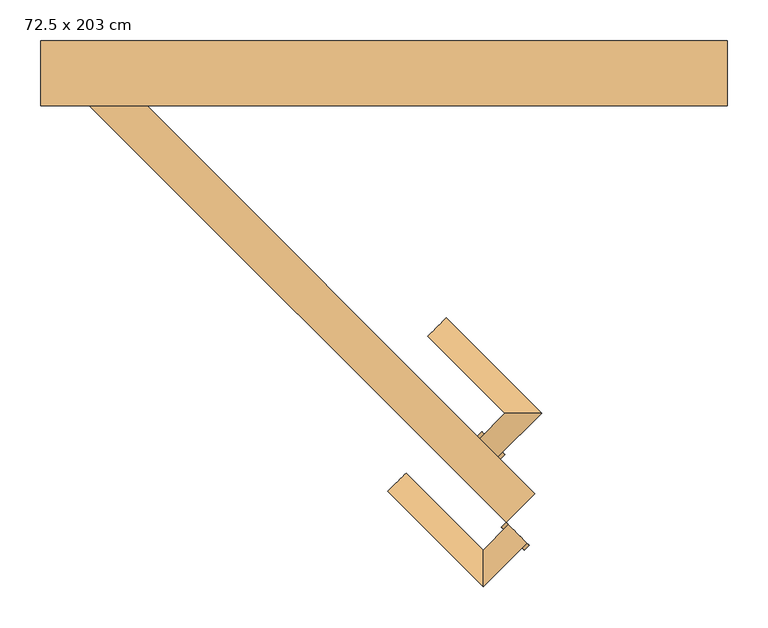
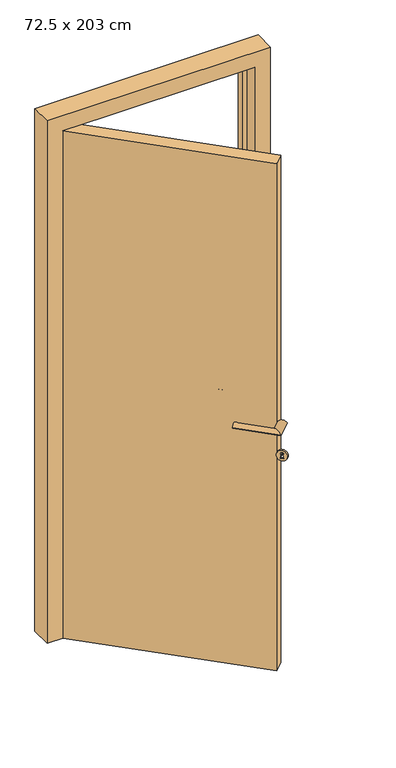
"""IFC4 building model written with IfcOpenShell, lengths in millimetres: door geometry, Puerta abatible ciega con ventilación : 72.5 x 203 cm."""

from ifc_helpers import new_model, si_unit, point, frame, frame_2d, origin, origin_with_axes, place, context, project, spatial, polyline, circle_curve, ellipse_curve, trimmed, segment, composite_curve, outline, extrude, faceted_brep, source, transform, mapped, element, save
from ifc_brep_helpers import plane_surface, cylinder_surface, advanced_brep


def door_72_5_x_203_cm_4a5d1edf(model_context):
    return source(origin(), model_context, "Body", "SolidModel", [
        extrude(outline(composite_curve([segment(trimmed(circle_curve(frame_2d((0.0, 20.0)), 20.0), [point((0.0, 40.0000001))], [point((0.0, 0.0))], False, "CARTESIAN"), True, "CONTINUOUS"), segment(trimmed(circle_curve(frame_2d((0.0, 20.0)), 20.0), [point((0.0, 0.0))], [point((0.0, 40.0000001))], False, "CARTESIAN"), True, "CONTINUOUS")], self_intersect=False), holes=[composite_curve([segment(trimmed(circle_curve(frame_2d((7.2874327, 20.0)), 5.0), [point((2.8258407, 17.7429673))], [point((2.8258407, 22.2570328))], True, "CARTESIAN"), True, "CONTINUOUS"), segment(polyline([(2.8258407, 22.2570328), (-11.7285952, 25.8858612), (-11.7285952, 14.1141389), (2.8258407, 17.7429673)]), True, "CONTINUOUS")], self_intersect=False)]), frame((144.4955621, -558.3092706, 869.9969135), z_axis=(0.7071067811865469, 0.7071067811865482, 0.0), x_axis=(0.0, 0.0, 1.0)), (0.0, 0.0, 1.0), 8.0),
        advanced_brep(
        [(152.9808435, -555.4808435, 1000.0), (175.6082605, -578.1082605, 1000.0), (121.8681451, -631.8483759, 1000.0), (121.8681451, -586.5935419, 1000.0), (27.1158364, -491.8412332, 1000.0), (4.4884194, -514.4686502, 1000.0)],
        [
            (0, 1, circle_curve(frame((164.294552, -566.794552, 988.1967254), z_axis=(0.7071067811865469, 0.7071067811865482, 0.0), x_axis=(0.7071067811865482, -0.7071067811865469, 0.0)), 19.8825877)),
            (1, 0, circle_curve(frame((164.294552, -566.794552, 1011.8032746), z_axis=(0.7071067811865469, 0.7071067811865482, 0.0), x_axis=(0.7071067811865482, -0.7071067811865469, 0.0)), 19.8825877)),
            (1, 2),
            (2, 3, ellipse_curve(frame((121.8681451, -609.2209589, 1011.8032746), z_axis=(1.0, 0.0, 0.0), x_axis=(0.0, 1.0, 0.0)), 28.1182251, 19.8825877)),
            (3, 0),
            (3, 2, ellipse_curve(frame((121.8681451, -609.2209589, 988.1967254), z_axis=(1.0, 0.0, 0.0), x_axis=(0.0, 1.0, 0.0)), 28.1182251, 19.8825877)),
            (4, 5, circle_curve(frame((15.8021279, -503.1549417, 1011.8032746), z_axis=(-0.7071067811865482, 0.7071067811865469, 0.0), x_axis=(-0.7071067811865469, -0.7071067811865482, 0.0)), 19.8825877)),
            (5, 4, circle_curve(frame((15.8021279, -503.1549417, 988.1967254), z_axis=(-0.7071067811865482, 0.7071067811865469, 0.0), x_axis=(-0.7071067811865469, -0.7071067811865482, 0.0)), 19.8825877)),
            (2, 5),
            (4, 3),
        ],
        [
            plane_surface(frame((164.294552, -566.794552, 1000.0), z_axis=(0.7071067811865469, 0.7071067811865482, 0.0), x_axis=(0.0, 0.0, -1.0))),
            cylinder_surface(frame((164.294552, -566.794552, 1011.8032746), z_axis=(0.7071067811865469, 0.7071067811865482, 0.0), x_axis=(0.7071067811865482, -0.7071067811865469, 0.0)), 19.8825877),
            cylinder_surface(frame((164.294552, -566.794552, 988.1967254), z_axis=(0.7071067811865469, 0.7071067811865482, 0.0), x_axis=(0.7071067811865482, -0.7071067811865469, 0.0)), 19.8825877),
            plane_surface(frame((15.8021279, -503.1549417, 1000.0), z_axis=(-0.7071067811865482, 0.7071067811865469, 0.0), x_axis=(0.0, 0.0, -1.0))),
            cylinder_surface(frame((121.8681451, -609.2209589, 1011.8032746), z_axis=(0.7071067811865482, -0.7071067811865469, 0.0), x_axis=(-0.7071067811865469, -0.7071067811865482, 0.0)), 19.8825877),
            cylinder_surface(frame((121.8681451, -609.2209589, 988.1967254), z_axis=(0.7071067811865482, -0.7071067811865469, 0.0), x_axis=(-0.7071067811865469, -0.7071067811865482, 0.0)), 19.8825877),
        ],
        [
            (0, [[1, 2]]),
            (1, [[3, 4, 5, -2]]),
            (2, [[-5, 6, -3, -1]]),
            (3, [[7, 8]]),
            (4, [[9, -7, 10, -4]]),
            (5, [[-10, -8, -9, -6]]),
        ],
    ),
        extrude(outline(composite_curve([segment(trimmed(circle_curve(frame_2d((0.0, 20.0)), 20.0), [point((0.0, 39.9999999))], [point((0.0, 0.0))], False, "CARTESIAN"), True, "CONTINUOUS"), segment(trimmed(circle_curve(frame_2d((0.0, 20.0)), 20.0), [point((0.0, 0.0))], [point((0.0, 39.9999999))], False, "CARTESIAN"), True, "CONTINUOUS")], self_intersect=False), holes=[composite_curve([segment(polyline([(11.7285952, 14.1141387), (11.7285952, 25.8858611), (-2.8258407, 22.2570328)]), True, "CONTINUOUS"), segment(trimmed(circle_curve(frame_2d((-7.2874327, 20.0)), 5.0), [point((-2.8258407, 22.2570328))], [point((-2.8258407, 17.7429672))], True, "CARTESIAN"), True, "CONTINUOUS"), segment(polyline([(-2.8258407, 17.7429672), (11.7285952, 14.1141387)]), True, "CONTINUOUS")], self_intersect=False)]), frame((143.0813485, -474.8706704, 869.9969135), z_axis=(0.7071067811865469, 0.7071067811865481, 0.0), x_axis=(0.0, 0.0, -1.0)), (0.0, 0.0, 1.0), 8.0),
        advanced_brep(
        [(140.2529214, -472.0422433, 1000.0), (117.6255044, -449.4148263, 1000.0), (148.7382028, -418.3021279, 1000.0), (193.9930368, -418.3021279, 1000.0), (76.6133111, -300.9224023, 1000.0), (53.9858941, -323.5498193, 1000.0)],
        [
            (0, 1, circle_curve(frame((128.9392129, -460.7285348, 988.1967254), z_axis=(-0.7071067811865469, -0.7071067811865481, 0.0), x_axis=(-0.7071067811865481, 0.7071067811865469, 0.0)), 19.8825877)),
            (1, 0, circle_curve(frame((128.9392129, -460.7285348, 1011.8032746), z_axis=(-0.7071067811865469, -0.7071067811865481, 0.0), x_axis=(-0.7071067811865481, 0.7071067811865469, 0.0)), 19.8825877)),
            (1, 2),
            (2, 3, ellipse_curve(frame((171.3656198, -418.3021279, 1011.8032746), z_axis=(0.0, -1.0, 0.0), x_axis=(-1.0, 0.0, 0.0)), 28.1182251, 19.8825877)),
            (3, 0),
            (3, 2, ellipse_curve(frame((171.3656198, -418.3021279, 988.1967254), z_axis=(0.0, -1.0, 0.0), x_axis=(-1.0, 0.0, 0.0)), 28.1182251, 19.8825877)),
            (4, 5, circle_curve(frame((65.2996026, -312.2361108, 1011.8032746), z_axis=(-0.7071067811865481, 0.7071067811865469, 0.0), x_axis=(-0.7071067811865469, -0.7071067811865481, 0.0)), 19.8825877)),
            (5, 4, circle_curve(frame((65.2996026, -312.2361108, 988.1967254), z_axis=(-0.7071067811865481, 0.7071067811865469, 0.0), x_axis=(-0.7071067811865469, -0.7071067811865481, 0.0)), 19.8825877)),
            (2, 5),
            (4, 3),
        ],
        [
            plane_surface(frame((128.9392129, -460.7285348, 1000.0), z_axis=(-0.7071067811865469, -0.7071067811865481, 0.0), x_axis=(0.0, 0.0, -1.0))),
            cylinder_surface(frame((128.9392129, -460.7285348, 1011.8032746), z_axis=(-0.7071067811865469, -0.7071067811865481, 0.0), x_axis=(-0.7071067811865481, 0.7071067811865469, 0.0)), 19.8825877),
            cylinder_surface(frame((128.9392129, -460.7285348, 988.1967254), z_axis=(-0.7071067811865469, -0.7071067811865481, 0.0), x_axis=(-0.7071067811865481, 0.7071067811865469, 0.0)), 19.8825877),
            plane_surface(frame((65.2996026, -312.2361108, 1000.0), z_axis=(-0.7071067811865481, 0.7071067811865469, 0.0), x_axis=(0.0, 0.0, -1.0))),
            cylinder_surface(frame((171.3656198, -418.3021279, 1011.8032746), z_axis=(0.7071067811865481, -0.7071067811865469, 0.0), x_axis=(-0.7071067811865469, -0.7071067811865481, 0.0)), 19.8825877),
            cylinder_surface(frame((171.3656198, -418.3021279, 988.1967254), z_axis=(0.7071067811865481, -0.7071067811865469, 0.0), x_axis=(-0.7071067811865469, -0.7071067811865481, 0.0)), 19.8825877),
        ],
        [
            (0, [[1, 2]]),
            (1, [[3, 4, 5, -2]]),
            (2, [[-5, 6, -3, -1]]),
            (3, [[7, 8]]),
            (4, [[9, -7, 10, -4]]),
            (5, [[-10, -8, -9, -6]]),
        ],
    ),
        extrude(outline(polyline([(150.1524164, -552.6524164), (-362.5, -40.0), (-327.1446609, -4.6446609), (185.5077554, -517.2970773), (150.1524164, -552.6524164)])), origin_with_axes(), (0.0, 0.0, 1.0), 2030.0),
        faceted_brep([(422.5, 40.0, 0.0), (422.5, -40.0, 0.0), (362.5, -40.0, 0.0), (362.5, 10.0, 0.0), (347.5, 10.0, 0.0), (347.5, 40.0, 0.0), (347.5, 40.0, 2015.0), (-347.5, 40.0, 2015.0), (-347.5, 40.0, 0.0), (-422.5, 40.0, 0.0), (-422.5, 40.0, 2090.0), (422.5, 40.0, 2090.0), (347.5, 10.0, 2015.0), (362.5, 10.0, 2030.0), (-362.5, 10.0, 2030.0), (-362.5, 10.0, 0.0), (-347.5, 10.0, 0.0), (-347.5, 10.0, 2015.0), (362.5, -40.0, 2030.0), (422.5, -40.0, 2090.0), (-422.5, -40.0, 2090.0), (-422.5, -40.0, 0.0), (-362.5, -40.0, 0.0), (-362.5, -40.0, 2030.0)], [[[0, 1, 2, 3, 4, 5]], [[5, 6, 7, 8, 9, 10, 11, 0]], [[4, 12, 6, 5]], [[3, 13, 14, 15, 16, 17, 12, 4]], [[2, 18, 13, 3]], [[1, 19, 20, 21, 22, 23, 18, 2]], [[0, 11, 19, 1]], [[10, 9, 21, 20]], [[9, 8, 16, 15, 22, 21]], [[17, 16, 8, 7]], [[23, 22, 15, 14]], [[12, 17, 7, 6]], [[18, 23, 14, 13]], [[11, 10, 20, 19]]]),
    ])


if __name__ == "__main__":
    model = new_model("IFC4")
    model_context = context("Model", 3, world=origin())
    ifc_project = project(units=[si_unit("LENGTHUNIT", "METRE", prefix="MILLI")], contexts=[model_context])
    site = spatial("IfcSite", under=ifc_project)
    building = spatial("IfcBuilding", under=site)
    placement = place(None, origin())
    door_72_5_x_203_cm_shape = door_72_5_x_203_cm_4a5d1edf(model_context)
    element("IfcDoor", 1, ObjectType="Puerta abatible ciega con ventilación : 72.5 x 203 cm", at=placement, inside=building, context=model_context, shape_type="MappedRepresentation", body=[
        mapped(door_72_5_x_203_cm_shape, transform((0.0, 0.0, 0.0), x_axis=(1.0, 0.0, 0.0), y_axis=(0.0, 1.0, 0.0), z_axis=(0.0, 0.0, 1.0))),
    ])
    save(model, "model.ifc")
